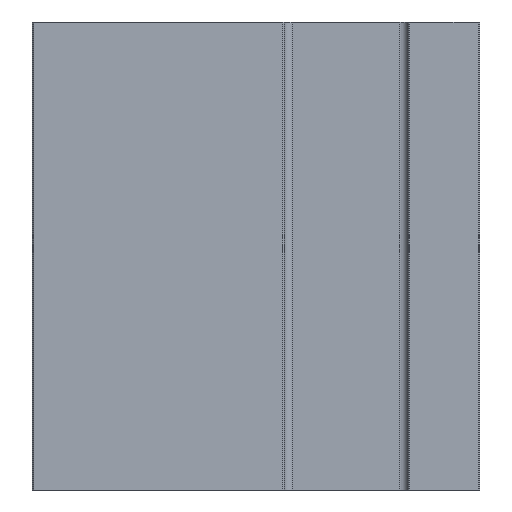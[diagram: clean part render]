
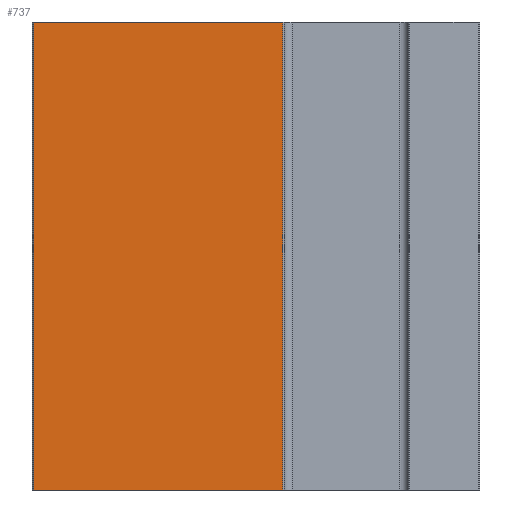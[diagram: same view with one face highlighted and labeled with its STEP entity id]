
A CAD part, front view. The second image highlights one B-rep face of the part: STEP entity #737.
In plain terms, the highlighted planar face has unit normal (0, -1, 0).
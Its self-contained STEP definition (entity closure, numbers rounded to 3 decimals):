
#737 = ADVANCED_FACE( '', ( #1860 ), #1861, .T. );
#867 = EDGE_CURVE( '', #1549, #1589, #2006, .T. );
#1129 = EDGE_CURVE( '', #1549, #1573, #2304, .T. );
#1297 = EDGE_CURVE( '', #1589, #1481, #2489, .T. );
#1481 = VERTEX_POINT( '', #2694 );
#1549 = VERTEX_POINT( '', #2772 );
#1569 = EDGE_CURVE( '', #1573, #1481, #2793, .T. );
#1573 = VERTEX_POINT( '', #2797 );
#1589 = VERTEX_POINT( '', #2813 );
#1860 = FACE_OUTER_BOUND( '', #3159, .T. );
#1861 = PLANE( '', #3160 );
#2006 = LINE( '', #3361, #3362 );
#2304 = LINE( '', #3766, #3767 );
#2489 = LINE( '', #4026, #4027 );
#2694 = CARTESIAN_POINT( '', ( -4.6, -5., -34. ) );
#2772 = CARTESIAN_POINT( '', ( -22.7, -5., 0. ) );
#2793 = LINE( '', #4434, #4435 );
#2797 = CARTESIAN_POINT( '', ( -4.6, -5., 0. ) );
#2813 = CARTESIAN_POINT( '', ( -22.7, -5., -34. ) );
#3159 = EDGE_LOOP( '', ( #4781, #4782, #4783, #4784 ) );
#3160 = AXIS2_PLACEMENT_3D( '', #4785, #4786, #4787 );
#3361 = CARTESIAN_POINT( '', ( -22.7, -5., 0. ) );
#3362 = VECTOR( '', #4951, 1. );
#3766 = CARTESIAN_POINT( '', ( -22.7, -5., 0. ) );
#3767 = VECTOR( '', #5311, 1. );
#4026 = CARTESIAN_POINT( '', ( -22.7, -5., -34. ) );
#4027 = VECTOR( '', #5502, 1. );
#4434 = CARTESIAN_POINT( '', ( -4.6, -5., 0. ) );
#4435 = VECTOR( '', #5823, 1. );
#4781 = ORIENTED_EDGE( '', *, *, #1297, .T. );
#4782 = ORIENTED_EDGE( '', *, *, #1569, .F. );
#4783 = ORIENTED_EDGE( '', *, *, #1129, .F. );
#4784 = ORIENTED_EDGE( '', *, *, #867, .T. );
#4785 = CARTESIAN_POINT( '', ( -22.7, -5., 0. ) );
#4786 = DIRECTION( '', ( 0., -1., 0. ) );
#4787 = DIRECTION( '', ( -1., 0., 0. ) );
#4951 = DIRECTION( '', ( 0., 0., -1. ) );
#5311 = DIRECTION( '', ( 1., 0., 0. ) );
#5502 = DIRECTION( '', ( 1., 0., 0. ) );
#5823 = DIRECTION( '', ( 0., 0., -1. ) );
